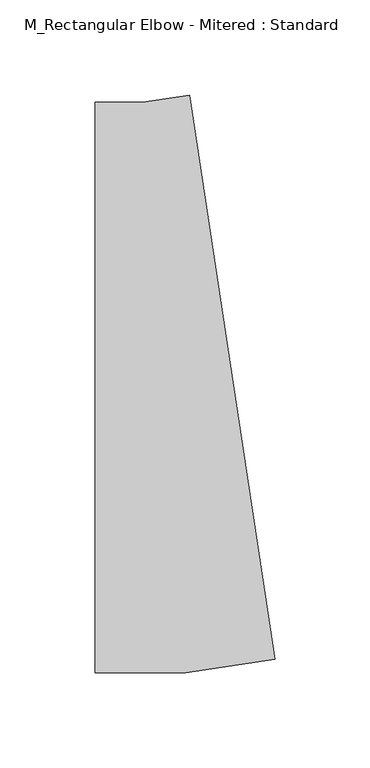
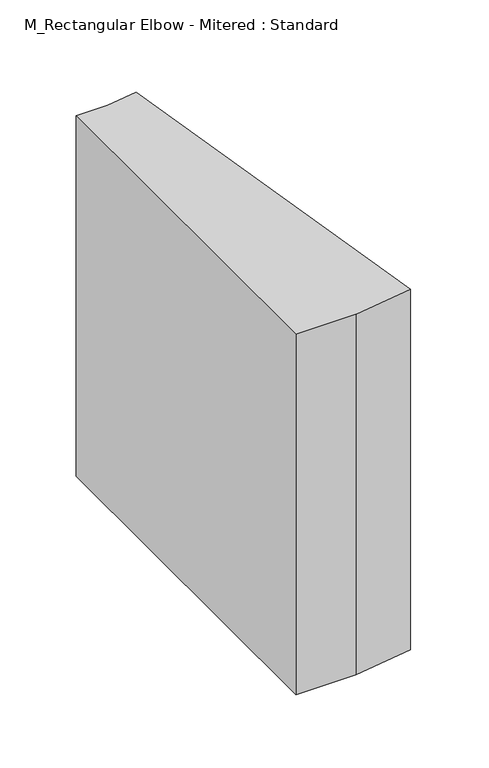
"""IFC4 building model written with IfcOpenShell, lengths in millimetres: duct fitting geometry, M_Rectangular Elbow - Mitered : Standard."""

from ifc_helpers import new_model, si_unit, frame, origin, place, context, project, spatial, polyline, outline, extrude, source, transform, mapped, element, save


def m_rectangular_elbow_mitered_standard_b4427c5f(model_context):
    return source(origin(), model_context, "Body", "SweptSolid", [
        extrude(outline(polyline([(-36.2881976, -150.0), (-36.2881976, 150.0), (-11.2881976, 150.0), (13.4302339, 153.7415432), (58.3287521, -142.8796345), (11.2881976, -150.0), (-36.2881976, -150.0)])), frame((0.0, 0.0, -150.0), z_axis=(0.0, 0.0, 1.0), x_axis=(1.0, 0.0, 0.0)), (0.0, 0.0, 1.0), 300.0),
        extrude(outline(polyline([(-36.2881976, -150.0), (-36.2881976, 150.0), (-11.2881976, 150.0), (13.4302339, 153.7415432), (58.3287521, -142.8796345), (11.2881976, -150.0), (-36.2881976, -150.0)])), frame((0.0, 0.0, -150.0), z_axis=(0.0, 0.0, 1.0), x_axis=(1.0, 0.0, 0.0)), (0.0, 0.0, 1.0), 300.0),
        extrude(outline(polyline([(-36.2881976, -150.0), (-36.2881976, 150.0), (-11.2881976, 150.0), (13.4302339, 153.7415432), (58.3287521, -142.8796345), (11.2881976, -150.0), (-36.2881976, -150.0)])), frame((0.0, 0.0, -150.0), z_axis=(0.0, 0.0, 1.0), x_axis=(1.0, 0.0, 0.0)), (0.0, 0.0, 1.0), 300.0),
    ])


if __name__ == "__main__":
    model = new_model("IFC4")
    model_context = context("Model", 3, world=origin())
    ifc_project = project(units=[si_unit("LENGTHUNIT", "METRE", prefix="MILLI")], contexts=[model_context])
    site = spatial("IfcSite", under=ifc_project)
    building = spatial("IfcBuilding", under=site)
    placement = place(None, origin())
    m_rectangular_elbow_mitered_standard_shape = m_rectangular_elbow_mitered_standard_b4427c5f(model_context)
    element("IfcDuctFitting", 1, ObjectType="M_Rectangular Elbow - Mitered : Standard", at=placement, inside=building, context=model_context, shape_type="MappedRepresentation", body=[
        mapped(m_rectangular_elbow_mitered_standard_shape, transform((0.0, 0.0, 0.0), x_axis=(1.0, 0.0, 0.0), y_axis=(0.0, 1.0, 0.0), z_axis=(0.0, 0.0, 1.0))),
    ])
    save(model, "model.ifc")
